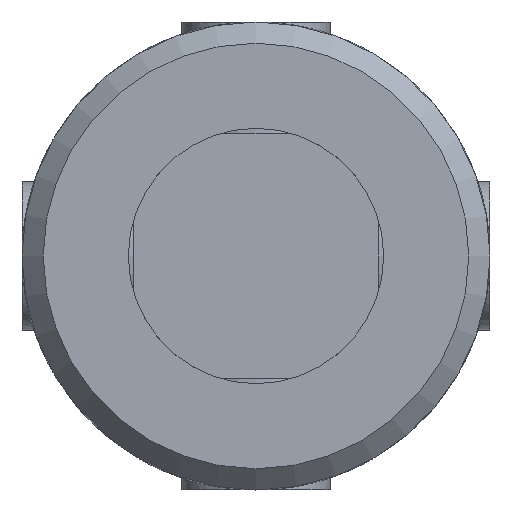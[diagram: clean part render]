
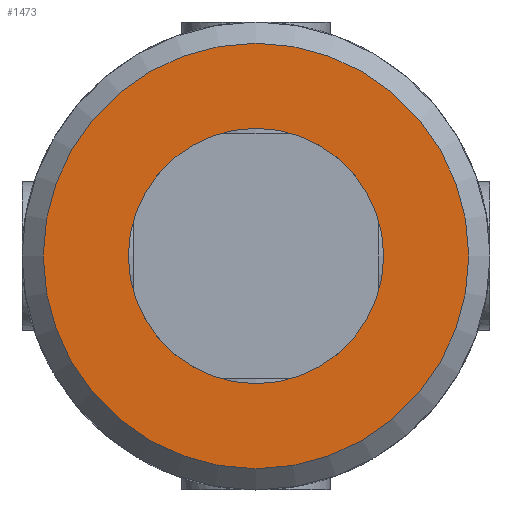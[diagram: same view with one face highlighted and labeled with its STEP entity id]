
A CAD part, front view. The second image highlights one B-rep face of the part: STEP entity #1473.
In plain terms, the highlighted planar face has unit normal (0, -1, 0).
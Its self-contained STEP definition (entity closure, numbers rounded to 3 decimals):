
#267=FACE_BOUND('',#501,.T.);
#375=FACE_OUTER_BOUND('',#500,.T.);
#500=EDGE_LOOP('',(#1255));
#501=EDGE_LOOP('',(#1256));
#578=CIRCLE('',#1619,6.);
#584=CIRCLE('',#1628,10.);
#703=VERTEX_POINT('',#2938);
#709=VERTEX_POINT('',#2985);
#886=EDGE_CURVE('',#703,#703,#578,.T.);
#894=EDGE_CURVE('',#709,#709,#584,.T.);
#1255=ORIENTED_EDGE('',*,*,#894,.F.);
#1256=ORIENTED_EDGE('',*,*,#886,.T.);
#1389=PLANE('',#1630);
#1473=ADVANCED_FACE('',(#375,#267),#1389,.F.);
#1619=AXIS2_PLACEMENT_3D('',#2939,#1951,#1952);
#1628=AXIS2_PLACEMENT_3D('',#2986,#1969,#1970);
#1630=AXIS2_PLACEMENT_3D('',#3162,#1977,#1978);
#1951=DIRECTION('center_axis',(0.,1.,0.));
#1952=DIRECTION('ref_axis',(-1.,0.,0.));
#1969=DIRECTION('center_axis',(0.,1.,0.));
#1970=DIRECTION('ref_axis',(1.,0.,0.));
#1977=DIRECTION('center_axis',(0.,1.,0.));
#1978=DIRECTION('ref_axis',(0.,0.,1.));
#2938=CARTESIAN_POINT('',(6.,-36.5,0.));
#2939=CARTESIAN_POINT('Origin',(0.,-36.5,0.));
#2985=CARTESIAN_POINT('',(-10.,-36.5,0.));
#2986=CARTESIAN_POINT('Origin',(0.,-36.5,0.));
#3162=CARTESIAN_POINT('Origin',(0.,-36.5,0.));
